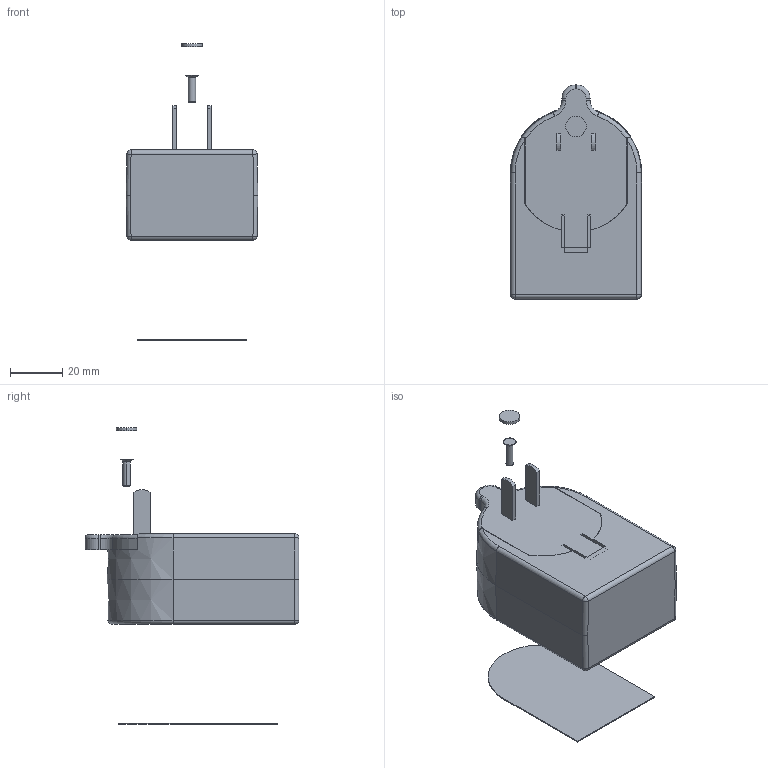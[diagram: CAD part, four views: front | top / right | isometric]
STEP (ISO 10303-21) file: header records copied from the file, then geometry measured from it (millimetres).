
FILE_DESCRIPTION((''),'2;1');
FILE_NAME('17F888-EN-C_PRT','2020-03-05T07:24:26',('qusrh3'),(''),'CREO PARAMETRIC BY PTC INC, 2019030','CREO PARAMETRIC BY PTC INC, 2019030','');
FILE_SCHEMA(('CONFIG_CONTROL_DESIGN'));
Length unit declared in the file: inch
Products named in the file (1): 17F888-EN-C_PRT
Bounding box: 50.55 x 82.18 x 113.97 mm (x, y, z)
Surface area: 24737.7 mm2 (no closed solid volume)
Topology: 0 solids, 7 shells, 105 faces, 284 edges, 184 vertices
Faces by surface type: plane 50, cylinder 32, torus 13, cone 6, sphere 4
Entity records: 3371 total; most frequent: CARTESIAN_POINT 698, DIRECTION 570, ORIENTED_EDGE 510, EDGE_CURVE 284, AXIS2_PLACEMENT_3D 201, VERTEX_POINT 184, VECTOR 168, LINE 168
